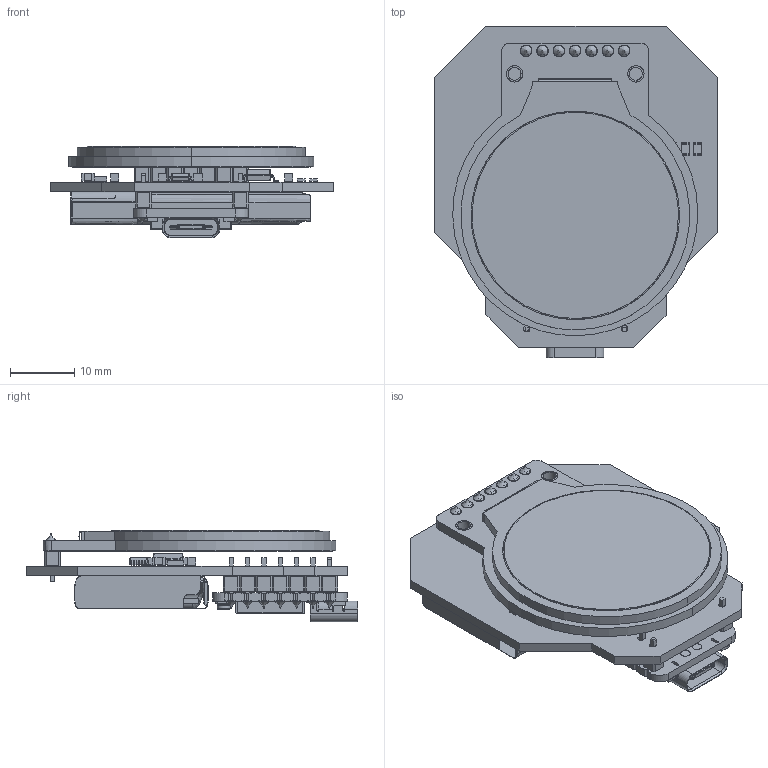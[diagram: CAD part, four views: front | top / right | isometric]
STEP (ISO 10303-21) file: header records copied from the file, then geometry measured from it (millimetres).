
FILE_DESCRIPTION(('HOOPS Exchange Step'),'2;1');
FILE_NAME('C:\Users\Alvin Nguyen\AppData\Local\Packages\Shapr3D.Shapr3D_dvv5p1vgwv6mp\TempState\export\temp_export','2026-07-04T23:54:52+19:00',('Alvin Nguyen'),('Shapr3D Limited'),'HOOPS Exchange 2026.3','Shapr3D','Authorized');
FILE_SCHEMA( ('AP242_MANAGED_MODEL_BASED_3D_ENGINEERING_MIM_LF {1 0 10303 442 1 1 4}') );
Length unit declared in the file: millimetre
Products named in the file (64): Kapton Tape:1; Battery Cell:1; Board Part 1:1; PCB:1; Board Part 2:1; Li Bat 503035P.step; Component4:1 (2); Component6:1 (2); Component4:1 (3); Component6:1 (3); BOSS-EXTRUDE14_8_:1; BOSS-EXTRUDE7_4_:1; BOSS-EXTRUDE7_3_:1; BOSS-EXTRUDE14_4_:1; BOSS-EXTRUDE14_2_:1; BOSS-EXTRUDE14_11_:1; BOSS-EXTRUDE7_7_:1; BOSS-EXTRUDE14_9_:1; BOSS-EXTRUDE14_3_:1; BOSS-EXTRUDE14_7_:1; MIRROR2:1; BOSS-EXTRUDE14_5_:1; BOSS-EXTRUDE14_12_:1; BOSS-EXTRUDE7_8_:1; BOSS-EXTRUDE7_1_:1; BOSS-EXTRUDE14_10_:1; BOSS-EXTRUDE7_9_:1; BOSS-EXTRUDE14_6_:1; CHAMFER9:1; BOSS-EXTRUDE14_1_:1; BOSS-EXTRUDE7_6_:1; BOSS-EXTRUDE7_2_:1; CUT-EXTRUDE5:1; BOSS-EXTRUDE7_5_:1; USB TYPE C PORT (1):1; USB TYPE C PORT:1; Shield:1; Body:1; Pins:1; SKTAAAE010 v1:2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
Assembly tree (63 placements, depth 6):
  components
    Li Bat 503035P.step
      Kapton Tape:1
      Battery Cell:1
      Board Part 1:1
      PCB:1
      Board Part 2:1
    XIAO-ESP32S3 v2.step
      Component6:1 (2)
        Component4:1 (2)
      Component6:1 (3)
        Component4:1 (3)
      Seeed Studio XIAO-ESP32-S3 (Sense):1
        USB TYPE C PORT:1
          USB TYPE C PORT (1):1
            BOSS-EXTRUDE14_8_:1
            BOSS-EXTRUDE7_4_:1
            BOSS-EXTRUDE7_3_:1
            BOSS-EXTRUDE14_4_:1
            BOSS-EXTRUDE14_2_:1
            BOSS-EXTRUDE14_11_:1
            BOSS-EXTRUDE7_7_:1
            BOSS-EXTRUDE14_9_:1
            BOSS-EXTRUDE14_3_:1
            BOSS-EXTRUDE14_7_:1
            MIRROR2:1
            BOSS-EXTRUDE14_5_:1
            BOSS-EXTRUDE14_12_:1
            BOSS-EXTRUDE7_8_:1
            BOSS-EXTRUDE7_1_:1
            BOSS-EXTRUDE14_10_:1
            BOSS-EXTRUDE7_9_:1
            BOSS-EXTRUDE14_6_:1
            CHAMFER9:1
            BOSS-EXTRUDE14_1_:1
            BOSS-EXTRUDE7_6_:1
            BOSS-EXTRUDE7_2_:1
            CUT-EXTRUDE5:1
            BOSS-EXTRUDE7_5_:1
        Shield:1
        SKTAAAE010 v1:2
          Body:1
          Pins:1
        SKTAAAE010 v1:1
          Body:1
          Pins:1
        U.FL-R-SMT-1_10_ v1:1
    Teyleten Robot 1.28 Inch GC9A01 240x240 v1.step
      TFT-Round-1.28 v1:1
        Component5:1
      Component6:1
        Component4:1
    digipet.step
      C_0805_2012Metric
      VSSOP-10_3x3mm_P0.5mm
      C_0805_2012Metric
      R_0805_2012Metric
      SO-8_3.9x4.9mm_P1.27mm
      C_0805_2012Metric
      R_0805_2012Metric
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Bounding box: 44 x 51.54 x 14.2 mm (x, y, z)
Volume: 10823.3 mm3; surface area: 17833 mm2
Topology: 106 solids, 111 shells, 2710 faces, 6933 edges, 4510 vertices
Faces by surface type: plane 1793, cylinder 506, bspline 345, extrusion 32, cone 14, torus 14, sphere 6
Full cylindrical faces by diameter (mm): 0.2 x1, 1 x21, 1.15 x2
Entity records: 119669 total; most frequent: CARTESIAN_POINT 55377, ORIENTED_EDGE 13812, DIRECTION 10969, EDGE_CURVE 6906, VECTOR 4729, LINE 4697, VERTEX_POINT 4514, AXIS2_PLACEMENT_3D 3120
